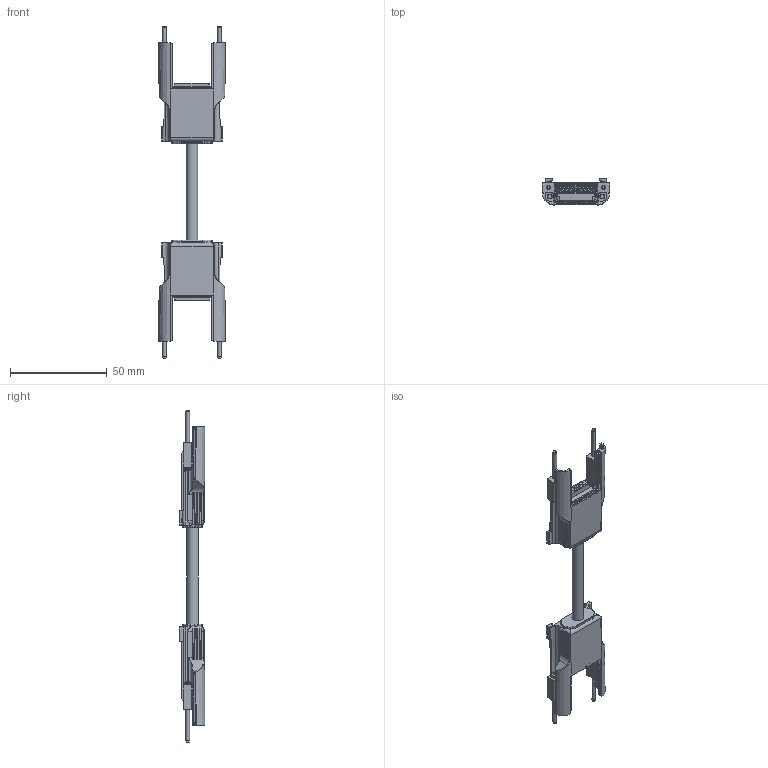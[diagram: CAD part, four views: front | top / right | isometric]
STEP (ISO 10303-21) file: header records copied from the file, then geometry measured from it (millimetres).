
FILE_DESCRIPTION(/* description */ (''),/* implementation_level */ '2;1');
FILE_NAME(/* name */ 'DSD- (95A252860-a).stp',/* time_stamp */ '2020-06-01T12:35:39+02:00',/* author */ (''),/* organization */ (''),/* preprocessor_version */ 'ST-DEVELOPER v16.7',/* originating_system */ 'SIEMENS PLM Software NX 12.0',/* authorisation */ '');
FILE_SCHEMA (('AUTOMOTIVE_DESIGN { 1 0 10303 214 3 1 1 1 }'));
Length unit declared in the file: millimetre
Products named in the file (5): AP003755_00_1-Cavo D6 L50 cascade; MP001991_02_1-Vite imp. M2x29_5 testa cil. Ph; MP001955_04_1-Corpo connettore SG4E; MP001951_02_1-Guarnizione connettore SG4E; AS000534_05_1-SG4E cable plugs
Assembly tree (9 placements, depth 2):
  AS000534_05_1-SG4E cable plugs
    MP001951_02_1-Guarnizione connettore SG4E  x2
    MP001955_04_1-Corpo connettore SG4E  x2
    MP001991_02_1-Vite imp. M2x29_5 testa cil. Ph  x4
    AP003755_00_1-Cavo D6 L50 cascade
Bounding box: 35 x 13.4 x 171.4 mm (x, y, z)
Volume: 21427.2 mm3; surface area: 14648.9 mm2
Topology: 9 solids, 9 shells, 1545 faces, 3925 edges, 2506 vertices
Faces by surface type: plane 1126, cylinder 239, bspline 90, cone 44, torus 38, sphere 8
Full cylindrical faces by diameter (mm): 1.6 x4, 1.8 x4, 1.886 x4, 2.05 x4, 3.6 x4, 4 x4, 6 x1
Entity records: 22817 total; most frequent: CARTESIAN_POINT 5122, ORIENTED_EDGE 3654, DIRECTION 3502, EDGE_CURVE 1827, LINE 1376, VECTOR 1376, VERTEX_POINT 1186, AXIS2_PLACEMENT_3D 1063
